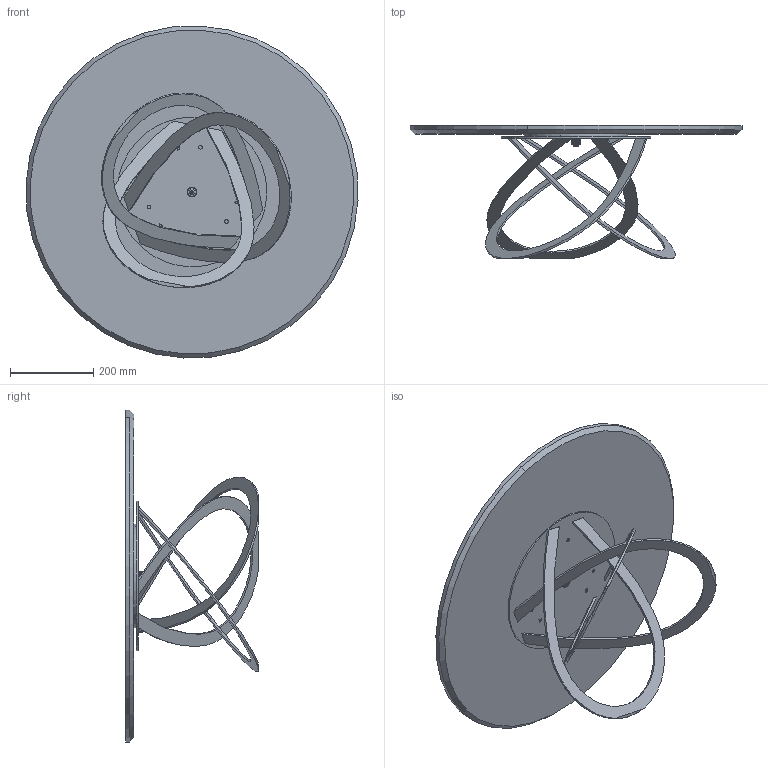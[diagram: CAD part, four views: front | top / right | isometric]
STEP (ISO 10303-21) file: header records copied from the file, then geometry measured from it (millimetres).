
FILE_DESCRIPTION (( 'STEP AP203' ), '1' );
FILE_NAME ('FL12M_Febe Low_d80xh32_Marble.STEP', '2024-08-06T08:58:37', ( '' ), ( '' ), 'SwSTEP 2.0', 'SolidWorks 2022', '' );
FILE_SCHEMA (( 'CONFIG_CONTROL_DESIGN' ));
Length unit declared in the file: millimetre
Products named in the file (10): M0X-00- D. piani marmo_D.800; FL12M_Febe Low_d80xh32_Marble; FET00000032_02-00-FEBE GAMBA PER H.32cm_gamba per febe 60; FET000000XX-00-FEBE STRUTTURA BASE H.XXcm_FEBE 60; P0000005-00-FILETTO M24 CON FORO H.20mm; FET00000032_01-00-FEBE DISCO METALLO SUPERIORE H.32cm_POS. gambe 380; P0000003-00-STAFFA DI FISSAGGIO DIAMETRO 250_P0000003-250mm normale; M8xXXmm_M8x20mm; M0XMXX-00-Piani Rotondi in marmo_D.80 CON PIASTRA; M8xXXmm_M8x24mm
Assembly tree (13 placements, depth 3):
  FL12M_Febe Low_d80xh32_Marble
    M0XMXX-00-Piani Rotondi in marmo_D.80 CON PIASTRA
      M0X-00- D. piani marmo_D.800
      P0000003-00-STAFFA DI FISSAGGIO DIAMETRO 250_P0000003-250mm normale
      M8xXXmm_M8x24mm
      P0000005-00-FILETTO M24 CON FORO H.20mm
      M8xXXmm_M8x20mm  x3
    FET000000XX-00-FEBE STRUTTURA BASE H.XXcm_FEBE 60
      FET00000032_02-00-FEBE GAMBA PER H.32cm_gamba per febe 60  x3
      FET00000032_01-00-FEBE DISCO METALLO SUPERIORE H.32cm_POS. gambe 380
Bounding box: 798.91 x 319.55 x 798.91 mm (x, y, z)
Volume: 11171619.9 mm3; surface area: 1609560.1 mm2
Topology: 11 solids, 11 shells, 261 faces, 602 edges, 361 vertices
Faces by surface type: plane 97, cylinder 71, cone 56, bspline 21, torus 16
Entity records: 8755 total; most frequent: CARTESIAN_POINT 3731, ORIENTED_EDGE 812, DIRECTION 796, EDGE_CURVE 406, AXIS2_PLACEMENT_3D 320, VERTEX_POINT 255, EDGE_LOOP 205, ADVANCED_FACE 177
